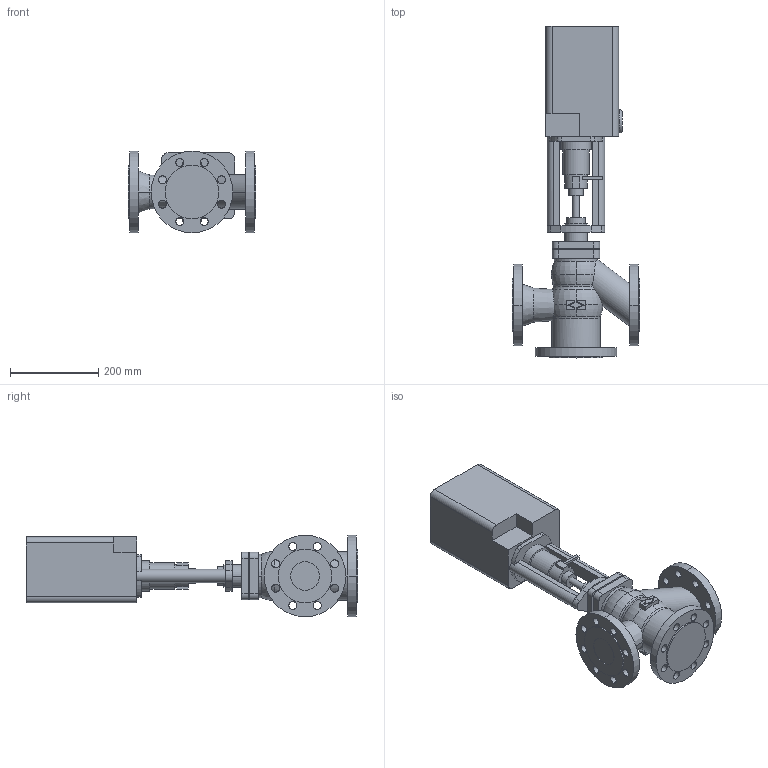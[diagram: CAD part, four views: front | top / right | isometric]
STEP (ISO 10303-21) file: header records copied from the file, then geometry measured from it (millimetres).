
FILE_DESCRIPTION(('OneSpaceDesigner STEP Export'),'2;1');
FILE_NAME('c000000394.stp','2006-09-19T11:47:58',(''),(''),'OneSpace Designer STEP processor for AP214 (Solid Model)','OneSpace Designer 13.20A 18-Aug-2005 (C) CoCreate Software GmbH','');
FILE_SCHEMA(('AUTOMOTIVE_DESIGN { 1 0 10303 214 1 1 1 1 }'));
Length unit declared in the file: millimetre
Products named in the file (2): 1; 2
Bounding box: 290 x 753.5 x 185 mm (x, y, z)
Volume: 11620185.8 mm3; surface area: 625486.6 mm2
Topology: 2 solids, 2 shells, 234 faces, 612 edges, 406 vertices
Faces by surface type: cylinder 116, plane 94, torus 20, cone 4
Entity records: 6666 total; most frequent: CARTESIAN_POINT 1262, ORIENTED_EDGE 1224, DIRECTION 983, EDGE_CURVE 612, VERTEX_POINT 406, AXIS2_PLACEMENT_3D 349, EDGE_LOOP 306, VECTOR 285
